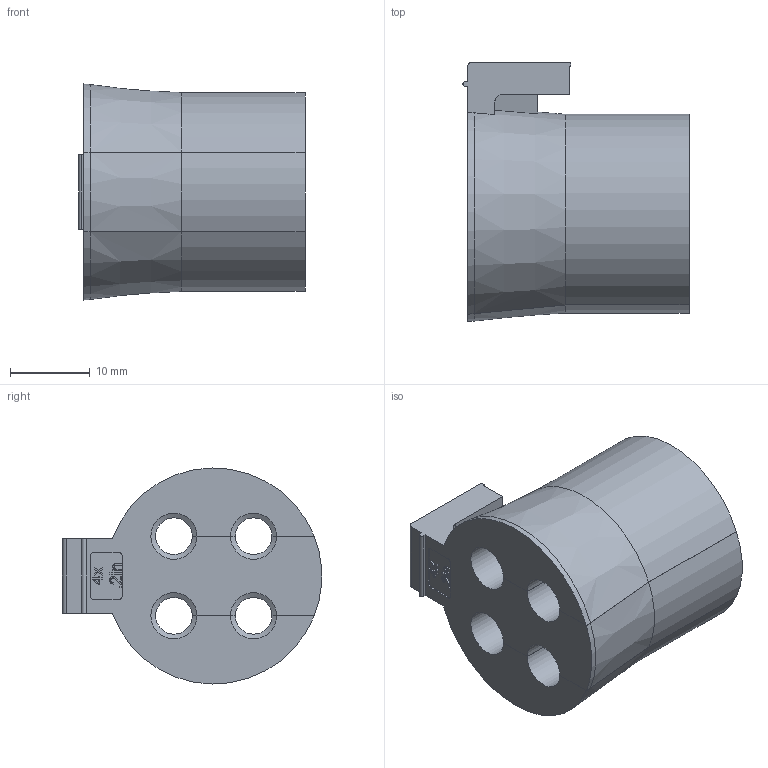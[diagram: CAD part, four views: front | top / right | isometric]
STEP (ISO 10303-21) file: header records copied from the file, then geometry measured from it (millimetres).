
FILE_DESCRIPTION(/* description */ (''),/* implementation_level */ '2;1');
FILE_NAME(/* name */ 'H:\SapWorkDir\Inventor\MP1\ConvertTempPath\87_12_121337_00_A_220525_KDT-X 4x5.stp',/* time_stamp */ '2022-05-25T12:28:45+02:00',/* author */ ('BAUER'),/* organization */ (''),/* preprocessor_version */ 'ST-DEVELOPER v16.13',/* originating_system */ 'Autodesk Inventor 2018',/* authorisation */ '');
FILE_SCHEMA (('AUTOMOTIVE_DESIGN { 1 0 10303 214 3 1 1 }'));
Length unit declared in the file: millimetre
Products named in the file (1): 121337
Bounding box: 28.4 x 32.53 x 27.14 mm (x, y, z)
Volume: 11857.3 mm3; surface area: 6425.2 mm2
Topology: 1 solids, 1 shells, 151 faces, 422 edges, 282 vertices
Faces by surface type: plane 89, cylinder 29, cone 17, bspline 16
Entity records: 4940 total; most frequent: CARTESIAN_POINT 1068, ORIENTED_EDGE 844, DIRECTION 723, EDGE_CURVE 422, LINE 317, VECTOR 317, VERTEX_POINT 282, AXIS2_PLACEMENT_3D 203
